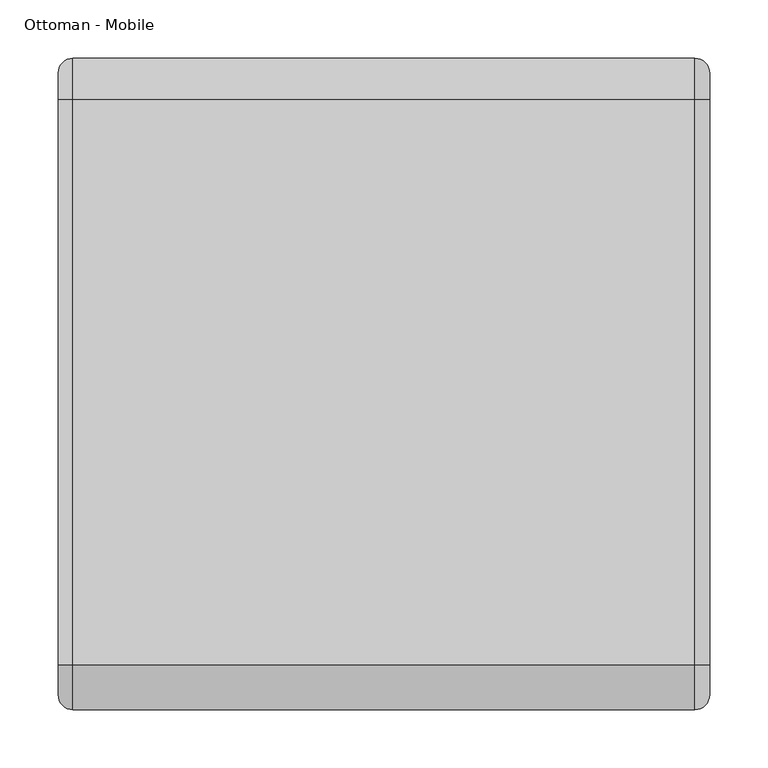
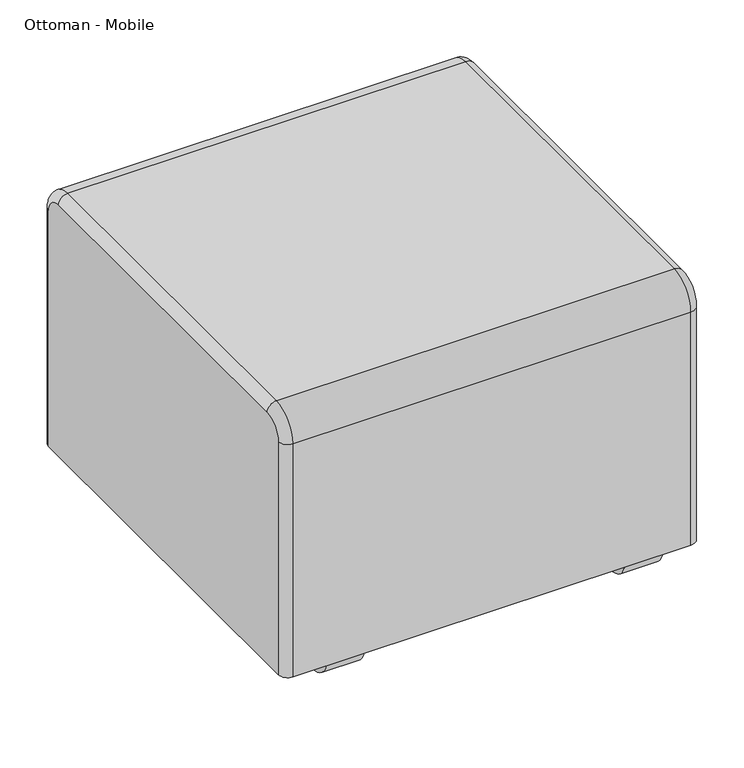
"""IFC4 building model written with IfcOpenShell, lengths in millimetres: furniture geometry, Steelcase Coalesse - Await - Seating - Modular : Ottoman - Mobile."""

import ifcopenshell
import ifcopenshell.guid

model = None  # the IFC model being written
_history = None  # IfcOwnerHistory: only IFC2X3 demands one
_inside = {}  # id of a spatial element -> (the spatial element, [elements in it])
_under = {}  # id of a project, library or spatial element -> (it, [spatial elements below it])
_declared = {}  # id of a project -> (the project, [libraries it declares])
_typed = {}  # id of a type object -> (the type object, [elements of that type])
_made_of = {}  # id of a material, layer set ... -> (it, [elements and type objects made of it])


def new_model(schema):
    """Start an empty IFC model of exactly this schema.

    Asked for "IFC4X3", IfcOpenShell would pick the latest addendum, in which some entities
    have other attributes; the version numbers below select the first issue.
    IFC2X3 requires an IfcOwnerHistory on every rooted entity: one is made here for all.
    """
    global model, _history
    if schema == "IFC4X3":
        model = ifcopenshell.file(schema_version=(4, 3, 0, 0))
    else:
        model = ifcopenshell.file(schema=schema)
    _inside.clear()
    _under.clear()
    _declared.clear()
    _typed.clear()
    _made_of.clear()
    _history = None
    if model.schema == "IFC2X3":
        org = make("IfcOrganization", Name="unknown")
        user = make(
            "IfcPersonAndOrganization",
            ThePerson=make("IfcPerson", FamilyName="unknown"),
            TheOrganization=org,
        )
        app = make(
            "IfcApplication",
            ApplicationDeveloper=org,
            Version="unknown",
            ApplicationFullName="unknown",
            ApplicationIdentifier="unknown",
        )
        _history = make(
            "IfcOwnerHistory",
            OwningUser=user,
            OwningApplication=app,
            ChangeAction="ADDED",
            CreationDate=0,
        )
    return model


def make(cls, **values):
    """One entity of the class cls with the attributes given. An attribute that is None is left unset."""
    return model.create_entity(
        cls, **{name: value for name, value in values.items() if value is not None}
    )


def rooted(cls, **values):
    """An entity with a GlobalId (a new one), such as an element, a storey or a relation."""
    return make(cls, GlobalId=ifcopenshell.guid.new(), OwnerHistory=_history, **values)


def si_unit(unit_type, name, prefix=None):
    """IfcSIUnit, for example si_unit("LENGTHUNIT", "METRE", prefix="MILLI")."""
    return make("IfcSIUnit", UnitType=unit_type, Prefix=prefix, Name=name)


def assignment(units):
    """IfcUnitAssignment: the units of a project."""
    return None if units is None else make("IfcUnitAssignment", Units=units)


def point(xyz):
    """IfcCartesianPoint."""
    return None if xyz is None else make("IfcCartesianPoint", Coordinates=xyz)


def direction(xyz):
    """IfcDirection."""
    return None if xyz is None else make("IfcDirection", DirectionRatios=xyz)


def frame(location, z_axis=None, x_axis=None):
    """IfcAxis2Placement3D, a coordinate frame: its origin and axes. An axis left out is left unset."""
    return make(
        "IfcAxis2Placement3D",
        Location=point(location),
        Axis=direction(z_axis),
        RefDirection=direction(x_axis),
    )


def frame_2d(location, x_axis=None):
    """IfcAxis2Placement2D, a coordinate frame in the plane: its origin and x axis."""
    return make(
        "IfcAxis2Placement2D", Location=point(location), RefDirection=direction(x_axis)
    )


def origin():
    """The frame at (0, 0, 0) with its axes left unset."""
    return frame((0.0, 0.0, 0.0))


def place(relative_to, where):
    """IfcLocalPlacement: puts the frame where relative to a parent placement (None: the world)."""
    return make(
        "IfcLocalPlacement", PlacementRelTo=relative_to, RelativePlacement=where
    )


def context(
    kind, dimensions, precision=None, world=None, true_north=None, identifier=None
):
    """IfcGeometricRepresentationContext, for example the 3D "Model" context."""
    return make(
        "IfcGeometricRepresentationContext",
        ContextIdentifier=identifier,
        ContextType=kind,
        CoordinateSpaceDimension=dimensions,
        Precision=precision,
        WorldCoordinateSystem=world,
        TrueNorth=true_north,
    )


def project(units=None, contexts=None):
    """IfcProject with its units and contexts."""
    return rooted(
        "IfcProject",
        Name="project",
        RepresentationContexts=contexts,
        UnitsInContext=assignment(units),
    )


def spatial(cls, under=None, at=None, **own):
    """A site, building, storey or space (cls), placed at a placement, below another one or the project."""
    s = rooted(cls, ObjectPlacement=at, **own)
    if under is not None:
        _under.setdefault(under.id(), (under, []))[1].append(s)
    return s


def circle_curve(where, radius):
    """IfcCircle in the frame where."""
    return make("IfcCircle", Position=where, Radius=radius)


def ellipse_curve(where, semi_axis1, semi_axis2):
    """IfcEllipse in the frame where."""
    return make(
        "IfcEllipse", Position=where, SemiAxis1=semi_axis1, SemiAxis2=semi_axis2
    )


def trimmed(basis, trim1, trim2, sense, master):
    """IfcTrimmedCurve: the piece of a basis curve between two trims."""
    return make(
        "IfcTrimmedCurve",
        BasisCurve=basis,
        Trim1=trim1,
        Trim2=trim2,
        SenseAgreement=sense,
        MasterRepresentation=master,
    )


def segment(curve, same_sense, transition):
    """IfcCompositeCurveSegment."""
    return make(
        "IfcCompositeCurveSegment",
        Transition=transition,
        SameSense=same_sense,
        ParentCurve=curve,
    )


def composite_curve(segments, self_intersect=None):
    """IfcCompositeCurve: segments joined end to end."""
    return make("IfcCompositeCurve", Segments=segments, SelfIntersect=self_intersect)


def outline(outer, holes=None, kind="AREA"):
    """IfcArbitraryClosedProfileDef: a profile drawn as a closed curve; with holes, ...WithVoids."""
    if holes is None:
        return make("IfcArbitraryClosedProfileDef", ProfileType=kind, OuterCurve=outer)
    return make(
        "IfcArbitraryProfileDefWithVoids",
        ProfileType=kind,
        OuterCurve=outer,
        InnerCurves=holes,
    )


def extrude(swept, where, along, depth):
    """IfcExtrudedAreaSolid: the profile swept, set in the frame where, extruded along a direction by depth."""
    return make(
        "IfcExtrudedAreaSolid",
        SweptArea=swept,
        Position=where,
        ExtrudedDirection=direction(along),
        Depth=depth,
    )


def shape(context_of_items, identifier, shape_type, items):
    """IfcShapeRepresentation: the items that make up one representation, for example the "Body"."""
    return make(
        "IfcShapeRepresentation",
        ContextOfItems=context_of_items,
        RepresentationIdentifier=identifier,
        RepresentationType=shape_type,
        Items=items,
    )


def source(mapping_origin, context_of_items, identifier, shape_type, items):
    """IfcRepresentationMap: a shape defined once, which mapped items show again and again."""
    return make(
        "IfcRepresentationMap",
        MappingOrigin=mapping_origin,
        MappedRepresentation=shape(context_of_items, identifier, shape_type, items),
    )


def transform(
    local_origin,
    x_axis=None,
    y_axis=None,
    z_axis=None,
    scale=None,
    scale2=None,
    scale3=None,
    uniform=True,
):
    """IfcCartesianTransformationOperator3D, or its non-uniform kind. x_axis, y_axis, z_axis: its Axis1, 2, 3."""
    if uniform:
        return make(
            "IfcCartesianTransformationOperator3D",
            Axis1=direction(x_axis),
            Axis2=direction(y_axis),
            LocalOrigin=point(local_origin),
            Scale=scale,
            Axis3=direction(z_axis),
        )
    return make(
        "IfcCartesianTransformationOperator3DnonUniform",
        Axis1=direction(x_axis),
        Axis2=direction(y_axis),
        LocalOrigin=point(local_origin),
        Scale=scale,
        Axis3=direction(z_axis),
        Scale2=scale2,
        Scale3=scale3,
    )


def mapped(mapping_source, mapping_target):
    """IfcMappedItem: shows the shape of a source again, moved by a transform."""
    return make(
        "IfcMappedItem", MappingSource=mapping_source, MappingTarget=mapping_target
    )


def made_of(thing, what):
    """Note that an element or type object is made of a material, layer set ...; save() writes the relation."""
    if what is not None:
        _made_of.setdefault(what.id(), (what, []))[1].append(thing)
    return thing


def element(
    cls,
    number,
    at=None,
    inside=None,
    cuts=None,
    type_object=None,
    material=None,
    context=None,
    identifier="Body",
    shape_type=None,
    held_by="IfcProductDefinitionShape",
    body=None,
    shapes=None,
    **own,
):
    """One element of the class cls, such as IfcWall. Its Tag is "e" and its number.

    at: its placement. inside: the storey or other place that contains it. cuts: it is an
    opening in that element (IfcRelVoidsElement). A single representation is given by context,
    identifier, shape_type and body (its items); several are given by shapes. held_by: the class
    of the entity that holds the representations. save() writes the other relations.
    """
    e = rooted(cls, Tag="e%d" % number, ObjectPlacement=at, **own)
    if body is not None:
        shapes = [shape(context, identifier, shape_type, body)]
    if shapes is not None:
        e.Representation = make(held_by, Representations=shapes)
    if inside is not None:
        _inside.setdefault(inside.id(), (inside, []))[1].append(e)
    if cuts is not None:
        rooted(
            "IfcRelVoidsElement", RelatingBuildingElement=cuts, RelatedOpeningElement=e
        )
    if type_object is not None:
        _typed.setdefault(type_object.id(), (type_object, []))[1].append(e)
    return made_of(e, material)


def aggregate(whole, parts):
    """IfcRelAggregates: a whole, such as a stair, and the parts it consists of."""
    return rooted("IfcRelAggregates", RelatingObject=whole, RelatedObjects=parts)


def save(model, path):
    """Write the relations noted so far, then the file.

    IfcRelAggregates (storeys below a building ...), IfcRelContainedInSpatialStructure (elements
    in a storey), IfcRelDefinesByType, IfcRelAssociatesMaterial and IfcRelDeclares: one each for
    every whole, place, type object, material and project.
    """
    for whole, parts in _under.values():
        aggregate(whole, parts)
    for where, things in _inside.values():
        rooted(
            "IfcRelContainedInSpatialStructure",
            RelatedElements=things,
            RelatingStructure=where,
        )
    for kind, things in _typed.values():
        rooted("IfcRelDefinesByType", RelatedObjects=things, RelatingType=kind)
    for what, things in _made_of.values():
        rooted("IfcRelAssociatesMaterial", RelatedObjects=things, RelatingMaterial=what)
    for by, libraries in _declared.values():
        rooted("IfcRelDeclares", RelatingContext=by, RelatedDefinitions=libraries)
    model.write(path)


def plane_surface(at):
    """IfcPlane: the flat surface through the origin of the frame at, square to its z axis."""
    return make("IfcPlane", Position=at)


def cylinder_surface(at, radius):
    """IfcCylindricalSurface: all points at the distance radius from the z axis of the frame at."""
    return make("IfcCylindricalSurface", Position=at, Radius=radius)


def revolved_surface(curve, axis_point, axis_direction):
    """IfcSurfaceOfRevolution: the curve turned about the line through axis_point along axis_direction."""
    return make(
        "IfcSurfaceOfRevolution",
        SweptCurve=make("IfcArbitraryOpenProfileDef", ProfileType="CURVE", Curve=curve),
        AxisPosition=make("IfcAxis1Placement", Location=point(axis_point), Axis=direction(axis_direction)),
    )


def advanced_brep(points, edges, surfaces, faces):
    """IfcAdvancedBrep: a solid bounded by faces that lie on surfaces and meet in shared edges.

    An edge is (start, end): straight between two places in points (the first is 0);
    or (start, end, curve); or (start, end, curve, False) where it runs against its curve.
    A face is (place in surfaces, loops), or (place, loops, False) where it looks against
    its surface's normal. A loop lists edges by number (the first is 1), with a minus sign
    where the edge is run from its end to its start. The first loop is the outer one.
    """
    corners = [point(p) for p in points]
    vertices = [make("IfcVertexPoint", VertexGeometry=c) for c in corners]
    made = []
    for start, end, *more in edges:
        made.append(
            make(
                "IfcEdgeCurve",
                EdgeStart=vertices[start],
                EdgeEnd=vertices[end],
                EdgeGeometry=more[0] if more else make("IfcPolyline", Points=[corners[start], corners[end]]),
                SameSense=more[1] if len(more) > 1 else True,
            )
        )
    hull = []
    for where, loops, *sense in faces:
        bounds = []
        for j, loop in enumerate(loops):
            ring = [make("IfcOrientedEdge", EdgeElement=made[abs(k) - 1], Orientation=k > 0) for k in loop]
            bounds.append(
                make(
                    "IfcFaceOuterBound" if j == 0 else "IfcFaceBound",
                    Bound=make("IfcEdgeLoop", EdgeList=ring),
                    Orientation=True,
                )
            )
        hull.append(make("IfcAdvancedFace", Bounds=bounds, FaceSurface=surfaces[where], SameSense=sense[0] if sense else True))
    return make("IfcAdvancedBrep", Outer=make("IfcClosedShell", CfsFaces=hull))


def ottoman_mobile_d823c06b(model_context):
    return source(origin(), model_context, "Body", "SolidModel", [
        extrude(outline(composite_curve([segment(trimmed(circle_curve(frame_2d((326.7139268, 31.2974023)), 31.75), [point((294.9639268, 31.2974023))], [point((358.4639268, 31.2974023))], False, "CARTESIAN"), True, "CONTINUOUS"), segment(trimmed(circle_curve(frame_2d((326.7139268, 31.2974023)), 31.75), [point((358.4639268, 31.2974023))], [point((294.9639268, 31.2974023))], False, "CARTESIAN"), True, "CONTINUOUS")], self_intersect=False)), frame((-178.1429462, 0.0, 0.0), z_axis=(1.0, 0.0, 0.0), x_axis=(0.0, 1.0, 0.0)), (0.0, 0.0, 1.0), 50.8),
        extrude(outline(composite_curve([segment(trimmed(circle_curve(frame_2d((-72.5244862, 31.8640664)), 31.75), [point((-104.2744862, 31.8640664))], [point((-40.7744862, 31.8640664))], False, "CARTESIAN"), True, "CONTINUOUS"), segment(trimmed(circle_curve(frame_2d((-72.5244862, 31.8640664)), 31.75), [point((-40.7744862, 31.8640664))], [point((-104.2744862, 31.8640664))], False, "CARTESIAN"), True, "CONTINUOUS")], self_intersect=False)), frame((-178.1429462, 0.0, 0.0), z_axis=(1.0, 0.0, 0.0), x_axis=(0.0, 1.0, 0.0)), (0.0, 0.0, 1.0), 50.8),
        extrude(outline(composite_curve([segment(trimmed(circle_curve(frame_2d((326.7139268, 31.2974023)), 31.75), [point((294.9639268, 31.2974023))], [point((358.4639268, 31.2974023))], False, "CARTESIAN"), True, "CONTINUOUS"), segment(trimmed(circle_curve(frame_2d((326.7139268, 31.2974023)), 31.75), [point((358.4639268, 31.2974023))], [point((294.9639268, 31.2974023))], False, "CARTESIAN"), True, "CONTINUOUS")], self_intersect=False)), frame((-578.1929462, 0.0, 0.0), z_axis=(1.0, 0.0, 0.0), x_axis=(0.0, 1.0, 0.0)), (0.0, 0.0, 1.0), 50.8),
        extrude(outline(composite_curve([segment(trimmed(circle_curve(frame_2d((-72.5244862, 31.8640664)), 31.75), [point((-104.2744862, 31.8640664))], [point((-40.7744862, 31.8640664))], False, "CARTESIAN"), True, "CONTINUOUS"), segment(trimmed(circle_curve(frame_2d((-72.5244862, 31.8640664)), 31.75), [point((-40.7744862, 31.8640664))], [point((-104.2744862, 31.8640664))], False, "CARTESIAN"), True, "CONTINUOUS")], self_intersect=False)), frame((-578.1929462, 0.0, 0.0), z_axis=(1.0, 0.0, 0.0), x_axis=(0.0, 1.0, 0.0)), (0.0, 0.0, 1.0), 50.8),
        advanced_brep(
        [(-663.917922, 393.3623127, 63.5), (-651.3345928, 405.9456418, 63.5), (-117.9113776, 405.9456418, 63.5), (-105.1179159, 393.1521801, 63.5), (-105.1179159, -140.0608965, 63.5), (-117.9113776, -152.8543582, 63.5), (-651.3345928, -152.8543582, 63.5), (-663.917922, -140.271029, 63.5), (-663.917922, -140.271029, 393.6999879), (-663.917922, -114.7543582, 419.2166587), (-663.917922, 370.1950719, 419.2166587), (-663.917922, 393.3623127, 396.049418), (-105.1179159, 393.1521801, 396.049418), (-105.1179159, 370.1950719, 419.0065262), (-105.1179159, -114.7543582, 419.0065262), (-105.1179159, -140.0608965, 393.6999879), (-117.9113776, -152.8543582, 393.6999879), (-651.3345928, -152.8543582, 393.6999879), (-117.9113776, -114.7543582, 431.7999879), (-651.3345928, -114.7543582, 431.7999879), (-117.9113776, 370.1950719, 431.7999879), (-651.3345928, 370.1950719, 431.7999879), (-117.9113776, 405.9456418, 396.049418), (-651.3345928, 405.9456418, 396.049418)],
        [
            (0, 1, circle_curve(frame((-651.3345928, 393.3623127, 63.5), z_axis=(0.0, 0.0, -1.0), x_axis=(0.0, 1.0, 0.0)), 12.5833292)),
            (1, 2),
            (2, 3, circle_curve(frame((-117.9113776, 393.1521801, 63.5), z_axis=(0.0, 0.0, -1.0), x_axis=(0.0, 1.0, 0.0)), 12.7934617)),
            (3, 4),
            (4, 5, circle_curve(frame((-117.9113776, -140.0608965, 63.5), z_axis=(0.0, 0.0, -1.0), x_axis=(0.0, -1.0, 0.0)), 12.7934617)),
            (5, 6),
            (6, 7, circle_curve(frame((-651.3345928, -140.271029, 63.5), z_axis=(0.0, 0.0, -1.0), x_axis=(0.0, -1.0, 0.0)), 12.5833292)),
            (7, 0),
            (7, 8),
            (8, 9, circle_curve(frame((-663.917922, -114.7543582, 393.6999879), z_axis=(-1.0, 0.0, 0.0), x_axis=(0.0, -1.0, 0.0)), 25.5166708)),
            (9, 10),
            (10, 11, circle_curve(frame((-663.917922, 370.1950719, 396.049418), z_axis=(-1.0, 0.0, 0.0), x_axis=(0.0, 0.0, 1.0)), 23.1672407)),
            (11, 0),
            (3, 12),
            (12, 13, circle_curve(frame((-105.1179159, 370.1950719, 396.049418), z_axis=(1.0, 0.0, 0.0), x_axis=(0.0, 0.0, 1.0)), 22.9571082)),
            (13, 14),
            (14, 15, circle_curve(frame((-105.1179159, -114.7543582, 393.6999879), z_axis=(1.0, 0.0, 0.0), x_axis=(0.0, -1.0, 0.0)), 25.3065383)),
            (15, 4),
            (15, 16, circle_curve(frame((-117.9113776, -140.0608965, 393.6999879), z_axis=(0.0, 0.0, -1.0), x_axis=(0.0, -1.0, 0.0)), 12.7934617)),
            (16, 5),
            (16, 17),
            (17, 6),
            (17, 8, circle_curve(frame((-651.3345928, -140.271029, 393.6999879), z_axis=(0.0, 0.0, -1.0), x_axis=(0.0, -1.0, 0.0)), 12.5833292)),
            (14, 18, circle_curve(frame((-117.9113776, -114.7543582, 419.0065262), z_axis=(0.0, -1.0, 0.0), x_axis=(0.0, 0.0, 1.0)), 12.7934617)),
            (18, 16, circle_curve(frame((-117.9113776, -114.7543582, 393.6999879), z_axis=(1.0, 0.0, 0.0), x_axis=(0.0, -1.0, 0.0)), 38.1)),
            (18, 19),
            (19, 17, circle_curve(frame((-651.3345928, -114.7543582, 393.6999879), z_axis=(1.0, 0.0, 0.0), x_axis=(0.0, -1.0, 0.0)), 38.1)),
            (19, 9, circle_curve(frame((-651.3345928, -114.7543582, 419.2166587), z_axis=(0.0, -1.0, 0.0), x_axis=(0.0, 0.0, 1.0)), 12.5833292)),
            (13, 20, circle_curve(frame((-117.9113776, 370.1950719, 419.0065262), z_axis=(0.0, -1.0, 0.0), x_axis=(0.0, 0.0, 1.0)), 12.7934617)),
            (20, 18),
            (20, 21),
            (21, 19),
            (21, 10, circle_curve(frame((-651.3345928, 370.1950719, 419.2166587), z_axis=(0.0, -1.0, 0.0), x_axis=(0.0, 0.0, 1.0)), 12.5833292)),
            (12, 22, circle_curve(frame((-117.9113776, 393.1521801, 396.049418), z_axis=(0.0, 0.0, 1.0), x_axis=(0.0, 1.0, 0.0)), 12.7934617)),
            (22, 20, circle_curve(frame((-117.9113776, 370.1950719, 396.049418), z_axis=(1.0, 0.0, 0.0), x_axis=(0.0, 0.0, 1.0)), 35.7505699)),
            (22, 23),
            (23, 21, circle_curve(frame((-651.3345928, 370.1950719, 396.049418), z_axis=(1.0, 0.0, 0.0), x_axis=(0.0, 0.0, 1.0)), 35.7505699)),
            (23, 11, circle_curve(frame((-651.3345928, 393.3623127, 396.049418), z_axis=(0.0, 0.0, 1.0), x_axis=(0.0, 1.0, 0.0)), 12.5833292)),
            (2, 22),
            (1, 23),
        ],
        [
            plane_surface(frame((0.0, -127.4543582, 63.5), z_axis=(0.0, 0.0, -1.0), x_axis=(1.0, 0.0, 0.0))),
            plane_surface(frame((-663.917922, -140.271029, 63.5), z_axis=(-1.0, 0.0, 0.0), x_axis=(0.0, 0.0, 1.0))),
            plane_surface(frame((-105.1179159, -127.4543582, 63.5), z_axis=(1.0, 0.0, 0.0), x_axis=(0.0, 0.0, 1.0))),
            cylinder_surface(frame((-117.9113776, -140.0608965, 63.5), z_axis=(0.0, 0.0, -1.0), x_axis=(0.0, -1.0, 0.0)), 12.7934617),
            plane_surface(frame((-117.9113776, -152.8543582, 63.5), z_axis=(0.0, -1.0, 0.0), x_axis=(0.0, 0.0, 1.0))),
            cylinder_surface(frame((-651.3345928, -140.271029, 63.5), z_axis=(0.0, 0.0, -1.0), x_axis=(0.0, -1.0, 0.0)), 12.5833292),
            revolved_surface(trimmed(ellipse_curve(frame((-117.9113776, -140.0608965, 393.6999879), z_axis=(0.0, 0.0, -1.0), x_axis=(0.0, -1.0, 0.0)), 12.7934617, 12.7934617), [point((-105.1179159, -140.0608965, 393.6999879))], [point((-117.9113776, -152.8543582, 393.6999879))], True, "CARTESIAN"), (0.0, -114.7543582, 393.6999879), (-1.0, 0.0, 0.0)),
            cylinder_surface(frame((0.0, -114.7543582, 393.6999879), z_axis=(-1.0, 0.0, 0.0), x_axis=(0.0, -1.0, 0.0)), 38.1),
            revolved_surface(trimmed(ellipse_curve(frame((-651.3345928, -140.271029, 393.6999879), z_axis=(0.0, 0.0, -1.0), x_axis=(0.0, -1.0, 0.0)), 12.5833292, 12.5833292), [point((-651.3345928, -152.8543582, 393.6999879))], [point((-663.917922, -140.271029, 393.6999879))], True, "CARTESIAN"), (0.0, -114.7543582, 393.6999879), (-1.0, 0.0, 0.0)),
            cylinder_surface(frame((-117.9113776, -114.7543582, 419.0065262), z_axis=(0.0, -1.0, 0.0), x_axis=(0.0, 0.0, 1.0)), 12.7934617),
            plane_surface(frame((-117.9113776, -114.7543582, 431.7999879), z_axis=(0.0, 0.0, 1.0), x_axis=(0.0, 1.0, 0.0))),
            cylinder_surface(frame((-651.3345928, -114.7543582, 419.2166587), z_axis=(0.0, -1.0, 0.0), x_axis=(0.0, 0.0, 1.0)), 12.5833292),
            revolved_surface(trimmed(ellipse_curve(frame((-117.9113776, 370.1950719, 419.0065262), z_axis=(0.0, -1.0, 0.0), x_axis=(0.0, 0.0, 1.0)), 12.7934617, 12.7934617), [point((-105.1179159, 370.1950719, 419.0065262))], [point((-117.9113776, 370.1950719, 431.7999879))], True, "CARTESIAN"), (0.0, 370.1950719, 396.049418), (-1.0, 0.0, 0.0)),
            cylinder_surface(frame((0.0, 370.1950719, 396.049418), z_axis=(-1.0, 0.0, 0.0), x_axis=(0.0, 0.0, 1.0)), 35.7505699),
            revolved_surface(trimmed(ellipse_curve(frame((-651.3345928, 370.1950719, 419.2166587), z_axis=(0.0, -1.0, 0.0), x_axis=(0.0, 0.0, 1.0)), 12.5833292, 12.5833292), [point((-651.3345928, 370.1950719, 431.7999879))], [point((-663.917922, 370.1950719, 419.2166587))], True, "CARTESIAN"), (0.0, 370.1950719, 396.049418), (-1.0, 0.0, 0.0)),
            cylinder_surface(frame((-117.9113776, 393.1521801, 396.049418), z_axis=(0.0, 0.0, 1.0), x_axis=(0.0, 1.0, 0.0)), 12.7934617),
            plane_surface(frame((-117.9113776, 405.9456418, 396.049418), z_axis=(0.0, 1.0, 0.0), x_axis=(0.0, 0.0, -1.0))),
            cylinder_surface(frame((-651.3345928, 393.3623127, 396.049418), z_axis=(0.0, 0.0, 1.0), x_axis=(0.0, 1.0, 0.0)), 12.5833292),
        ],
        [
            (0, [[1, 2, 3, 4, 5, 6, 7, 8]]),
            (1, [[-8, 9, 10, 11, 12, 13]]),
            (2, [[-4, 14, 15, 16, 17, 18]]),
            (3, [[-5, -18, 19, 20]]),
            (4, [[-6, -20, 21, 22]]),
            (5, [[-7, -22, 23, -9]]),
            (6, [[-17, 24, 25, -19]]),
            (7, [[-21, -25, 26, 27]]),
            (8, [[-10, -23, -27, 28]]),
            (9, [[-16, 29, 30, -24]]),
            (10, [[-26, -30, 31, 32]]),
            (11, [[-11, -28, -32, 33]]),
            (12, [[-15, 34, 35, -29]]),
            (13, [[-31, -35, 36, 37]]),
            (14, [[-12, -33, -37, 38]]),
            (15, [[-14, -3, 39, -34]]),
            (16, [[-36, -39, -2, 40]]),
            (17, [[-13, -38, -40, -1]]),
        ],
    ),
    ])


if __name__ == "__main__":
    model = new_model("IFC4")
    model_context = context("Model", 3, world=origin())
    ifc_project = project(units=[si_unit("LENGTHUNIT", "METRE", prefix="MILLI")], contexts=[model_context])
    site = spatial("IfcSite", under=ifc_project)
    building = spatial("IfcBuilding", under=site)
    placement = place(None, origin())
    ottoman_mobile_shape = ottoman_mobile_d823c06b(model_context)
    element("IfcFurniture", 1, ObjectType="Steelcase Coalesse - Await - Seating - Modular : Ottoman - Mobile", at=placement, inside=building, context=model_context, shape_type="MappedRepresentation", body=[
        mapped(ottoman_mobile_shape, transform((0.0, 0.0, 0.0), x_axis=(1.0, 0.0, 0.0), y_axis=(0.0, 1.0, 0.0), z_axis=(0.0, 0.0, 1.0))),
    ])
    save(model, "model.ifc")
